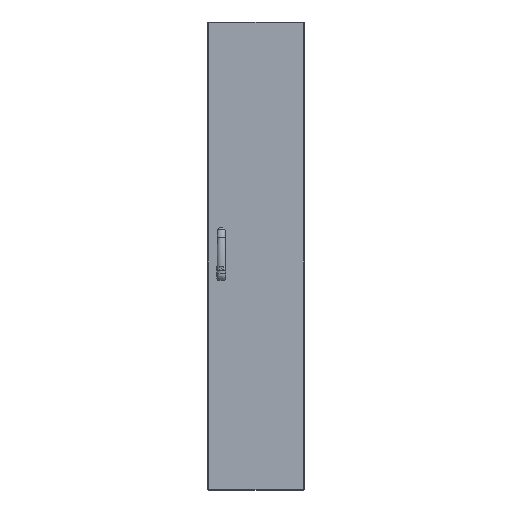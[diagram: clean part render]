
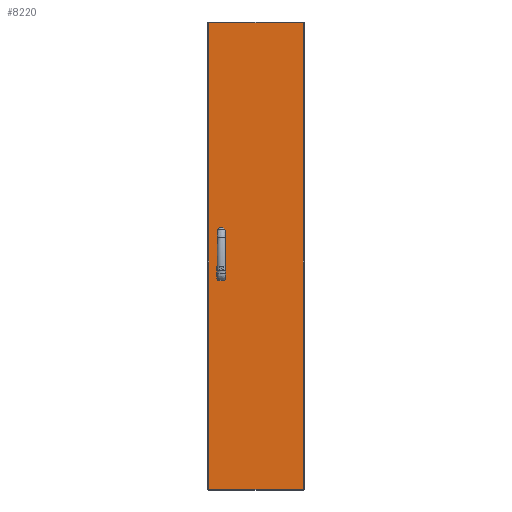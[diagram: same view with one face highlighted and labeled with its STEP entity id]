
A CAD part, top view. The second image highlights one B-rep face of the part: STEP entity #8220.
In plain terms, the highlighted planar face has unit normal (0, 0, 1).
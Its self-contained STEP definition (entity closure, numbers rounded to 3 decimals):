
#81 = VERTEX_POINT ( 'NONE', #5895 ) ;
#245 = CARTESIAN_POINT ( 'NONE',  ( 50.6, 960.25, 19. ) ) ;
#260 = VERTEX_POINT ( 'NONE', #3292 ) ;
#267 = EDGE_CURVE ( 'NONE', #5432, #1939, #390, .T. ) ;
#390 = CIRCLE ( 'NONE', #5013, 9.5 ) ;
#780 = DIRECTION ( 'NONE',  ( -1., 0., 0. ) ) ;
#840 = CARTESIAN_POINT ( 'NONE',  ( 359., 1760., 19. ) ) ;
#946 = DIRECTION ( 'NONE',  ( 1., 0., 0. ) ) ;
#1117 = VECTOR ( 'NONE', #5546, 1000. ) ;
#1173 = DIRECTION ( 'NONE',  ( 1., 0., 0. ) ) ;
#1507 = CARTESIAN_POINT ( 'NONE',  ( 3., 1760., 19. ) ) ;
#1562 = CARTESIAN_POINT ( 'NONE',  ( 0., 1757., 19. ) ) ;
#1643 = CARTESIAN_POINT ( 'NONE',  ( 60.1, 847.75, 19. ) ) ;
#1762 = ORIENTED_EDGE ( 'NONE', *, *, #5481, .F. ) ;
#1842 = CARTESIAN_POINT ( 'NONE',  ( 41.1, 960.25, 19. ) ) ;
#1939 = VERTEX_POINT ( 'NONE', #7740 ) ;
#1973 = VECTOR ( 'NONE', #2417, 1000. ) ;
#2118 = VECTOR ( 'NONE', #4514, 1000. ) ;
#2133 = LINE ( 'NONE', #1562, #7578 ) ;
#2143 = ORIENTED_EDGE ( 'NONE', *, *, #3621, .F. ) ;
#2163 = LINE ( 'NONE', #1507, #8572 ) ;
#2327 = CARTESIAN_POINT ( 'NONE',  ( 60.1, 960.25, 19. ) ) ;
#2364 = VECTOR ( 'NONE', #6140, 1000. ) ;
#2417 = DIRECTION ( 'NONE',  ( 0., 1., 0. ) ) ;
#2523 = LINE ( 'NONE', #8563, #3266 ) ;
#2657 = CIRCLE ( 'NONE', #4627, 9.5 ) ;
#2699 = CARTESIAN_POINT ( 'NONE',  ( 359., 1757., 19. ) ) ;
#2773 = EDGE_CURVE ( 'NONE', #1939, #3028, #4269, .T. ) ;
#2823 = EDGE_CURVE ( 'NONE', #6234, #81, #2133, .T. ) ;
#2861 = DIRECTION ( 'NONE',  ( -1., 0., 0. ) ) ;
#2884 = DIRECTION ( 'NONE',  ( 0., 1., 0. ) ) ;
#2908 = VERTEX_POINT ( 'NONE', #3779 ) ;
#2937 = FACE_BOUND ( 'NONE', #6476, .T. ) ;
#3028 = VERTEX_POINT ( 'NONE', #1643 ) ;
#3102 = CARTESIAN_POINT ( 'NONE',  ( 3., 3., 19. ) ) ;
#3151 = VERTEX_POINT ( 'NONE', #6618 ) ;
#3222 = ORIENTED_EDGE ( 'NONE', *, *, #2823, .T. ) ;
#3236 = CIRCLE ( 'NONE', #8591, 9.5 ) ;
#3262 = EDGE_CURVE ( 'NONE', #7327, #260, #4134, .T. ) ;
#3266 = VECTOR ( 'NONE', #7383, 1000. ) ;
#3292 = CARTESIAN_POINT ( 'NONE',  ( 359., 3., 19. ) ) ;
#3324 = ORIENTED_EDGE ( 'NONE', *, *, #2773, .F. ) ;
#3363 = EDGE_CURVE ( 'NONE', #81, #7327, #2163, .T. ) ;
#3475 = CARTESIAN_POINT ( 'NONE',  ( 0., 1760., 19. ) ) ;
#3566 = CARTESIAN_POINT ( 'NONE',  ( 41.1, 799.75, 19. ) ) ;
#3621 = EDGE_CURVE ( 'NONE', #3028, #2908, #2657, .T. ) ;
#3655 = CIRCLE ( 'NONE', #6200, 9.5 ) ;
#3664 = CARTESIAN_POINT ( 'NONE',  ( 60.1, 912.25, 19. ) ) ;
#3779 = CARTESIAN_POINT ( 'NONE',  ( 41.1, 847.75, 19. ) ) ;
#3821 = CARTESIAN_POINT ( 'NONE',  ( 41.1, 912.25, 19. ) ) ;
#3879 = ORIENTED_EDGE ( 'NONE', *, *, #267, .F. ) ;
#3892 = LINE ( 'NONE', #1842, #2118 ) ;
#4134 = LINE ( 'NONE', #6167, #1117 ) ;
#4140 = FACE_BOUND ( 'NONE', #6138, .T. ) ;
#4182 = FACE_OUTER_BOUND ( 'NONE', #8461, .T. ) ;
#4229 = ORIENTED_EDGE ( 'NONE', *, *, #4331, .F. ) ;
#4269 = LINE ( 'NONE', #8162, #2364 ) ;
#4331 = EDGE_CURVE ( 'NONE', #5370, #7144, #6609, .T. ) ;
#4514 = DIRECTION ( 'NONE',  ( 0., -1., 0. ) ) ;
#4619 = CARTESIAN_POINT ( 'NONE',  ( 60.1, 960.25, 19. ) ) ;
#4627 = AXIS2_PLACEMENT_3D ( 'NONE', #8060, #7313, #6559 ) ;
#4908 = CARTESIAN_POINT ( 'NONE',  ( 50.6, 799.75, 19. ) ) ;
#4918 = EDGE_CURVE ( 'NONE', #3151, #6008, #3892, .T. ) ;
#5013 = AXIS2_PLACEMENT_3D ( 'NONE', #4908, #6788, #7563 ) ;
#5370 = VERTEX_POINT ( 'NONE', #3664 ) ;
#5432 = VERTEX_POINT ( 'NONE', #3566 ) ;
#5481 = EDGE_CURVE ( 'NONE', #7144, #3151, #3236, .T. ) ;
#5536 = ORIENTED_EDGE ( 'NONE', *, *, #6117, .F. ) ;
#5546 = DIRECTION ( 'NONE',  ( 1., 0., 0. ) ) ;
#5634 = ORIENTED_EDGE ( 'NONE', *, *, #7310, .T. ) ;
#5895 = CARTESIAN_POINT ( 'NONE',  ( 3., 1757., 19. ) ) ;
#6008 = VERTEX_POINT ( 'NONE', #3821 ) ;
#6117 = EDGE_CURVE ( 'NONE', #6008, #5370, #3655, .T. ) ;
#6138 = EDGE_LOOP ( 'NONE', ( #7325, #1762, #4229, #5536 ) ) ;
#6140 = DIRECTION ( 'NONE',  ( 0., 1., 0. ) ) ;
#6145 = DIRECTION ( 'NONE',  ( 0., 0., 1. ) ) ;
#6167 = CARTESIAN_POINT ( 'NONE',  ( 0., 3., 19. ) ) ;
#6175 = DIRECTION ( 'NONE',  ( 0., 0., -1. ) ) ;
#6200 = AXIS2_PLACEMENT_3D ( 'NONE', #7025, #8475, #1173 ) ;
#6234 = VERTEX_POINT ( 'NONE', #2699 ) ;
#6325 = ORIENTED_EDGE ( 'NONE', *, *, #3363, .T. ) ;
#6476 = EDGE_LOOP ( 'NONE', ( #6888, #2143, #3324, #3879 ) ) ;
#6559 = DIRECTION ( 'NONE',  ( 1., 0., 0. ) ) ;
#6609 = LINE ( 'NONE', #4619, #1973 ) ;
#6618 = CARTESIAN_POINT ( 'NONE',  ( 41.1, 960.25, 19. ) ) ;
#6788 = DIRECTION ( 'NONE',  ( 0., 0., 1. ) ) ;
#6803 = PLANE ( 'NONE',  #7762 ) ;
#6888 = ORIENTED_EDGE ( 'NONE', *, *, #8534, .F. ) ;
#6918 = DIRECTION ( 'NONE',  ( 0., -1., 0. ) ) ;
#7025 = CARTESIAN_POINT ( 'NONE',  ( 50.6, 912.25, 19. ) ) ;
#7144 = VERTEX_POINT ( 'NONE', #2327 ) ;
#7310 = EDGE_CURVE ( 'NONE', #260, #6234, #8143, .T. ) ;
#7313 = DIRECTION ( 'NONE',  ( 0., 0., 1. ) ) ;
#7325 = ORIENTED_EDGE ( 'NONE', *, *, #4918, .F. ) ;
#7327 = VERTEX_POINT ( 'NONE', #3102 ) ;
#7383 = DIRECTION ( 'NONE',  ( 0., -1., 0. ) ) ;
#7503 = ORIENTED_EDGE ( 'NONE', *, *, #3262, .T. ) ;
#7563 = DIRECTION ( 'NONE',  ( 1., 0., 0. ) ) ;
#7578 = VECTOR ( 'NONE', #2861, 1000. ) ;
#7740 = CARTESIAN_POINT ( 'NONE',  ( 60.1, 799.75, 19. ) ) ;
#7762 = AXIS2_PLACEMENT_3D ( 'NONE', #3475, #6175, #780 ) ;
#8060 = CARTESIAN_POINT ( 'NONE',  ( 50.6, 847.75, 19. ) ) ;
#8143 = LINE ( 'NONE', #840, #8182 ) ;
#8162 = CARTESIAN_POINT ( 'NONE',  ( 60.1, 847.75, 19. ) ) ;
#8182 = VECTOR ( 'NONE', #2884, 1000. ) ;
#8220 = ADVANCED_FACE ( 'NONE', ( #2937, #4140, #4182 ), #6803, .F. ) ;
#8461 = EDGE_LOOP ( 'NONE', ( #5634, #3222, #6325, #7503 ) ) ;
#8475 = DIRECTION ( 'NONE',  ( 0., 0., 1. ) ) ;
#8534 = EDGE_CURVE ( 'NONE', #2908, #5432, #2523, .T. ) ;
#8563 = CARTESIAN_POINT ( 'NONE',  ( 41.1, 847.75, 19. ) ) ;
#8572 = VECTOR ( 'NONE', #6918, 1000. ) ;
#8591 = AXIS2_PLACEMENT_3D ( 'NONE', #245, #6145, #946 ) ;
